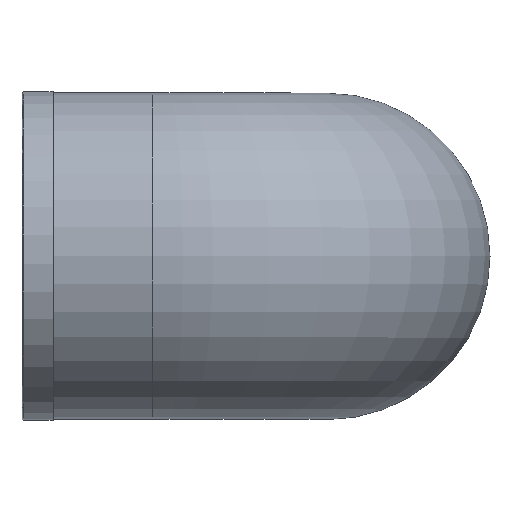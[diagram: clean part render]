
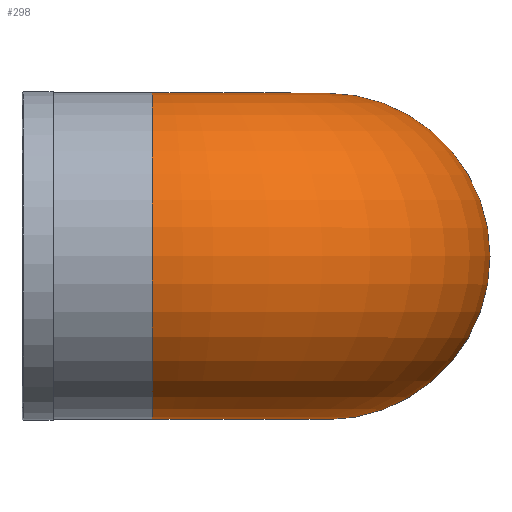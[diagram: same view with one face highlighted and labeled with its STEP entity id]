
A CAD part, top view. The second image highlights one B-rep face of the part: STEP entity #298.
In plain terms, the highlighted toroidal (fillet/blend) face has major radius 22.5 mm and minor radius 21 mm.
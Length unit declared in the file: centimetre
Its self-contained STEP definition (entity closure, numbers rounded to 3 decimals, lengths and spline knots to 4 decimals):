
#38=TOROIDAL_SURFACE('',#331,2.25,2.1);
#56=FACE_BOUND('',#110,.T.);
#77=FACE_OUTER_BOUND('',#109,.T.);
#109=EDGE_LOOP('',(#240));
#110=EDGE_LOOP('',(#241));
#131=CIRCLE('',#330,2.1);
#132=CIRCLE('',#332,2.1);
#156=VERTEX_POINT('',#3482);
#157=VERTEX_POINT('',#3485);
#187=EDGE_CURVE('',#156,#156,#131,.T.);
#188=EDGE_CURVE('',#157,#157,#132,.T.);
#240=ORIENTED_EDGE('',*,*,#187,.F.);
#241=ORIENTED_EDGE('',*,*,#188,.T.);
#298=ADVANCED_FACE('',(#77,#56),#38,.T.);
#330=AXIS2_PLACEMENT_3D('',#3483,#394,#395);
#331=AXIS2_PLACEMENT_3D('',#3484,#396,#397);
#332=AXIS2_PLACEMENT_3D('',#3486,#398,#399);
#394=DIRECTION('center_axis',(-1.,0.,0.));
#395=DIRECTION('ref_axis',(0.,0.,-1.));
#396=DIRECTION('center_axis',(0.,-1.,0.));
#397=DIRECTION('ref_axis',(0.,0.,-1.));
#398=DIRECTION('center_axis',(0.,0.,1.));
#399=DIRECTION('ref_axis',(-1.,0.,0.));
#3482=CARTESIAN_POINT('',(-1.6578,0.,4.275));
#3483=CARTESIAN_POINT('Origin',(-1.6578,0.,2.175));
#3484=CARTESIAN_POINT('Origin',(-1.6578,0.,-0.075));
#3485=CARTESIAN_POINT('',(2.6922,0.,-0.075));
#3486=CARTESIAN_POINT('Origin',(0.5922,0.,-0.075));
